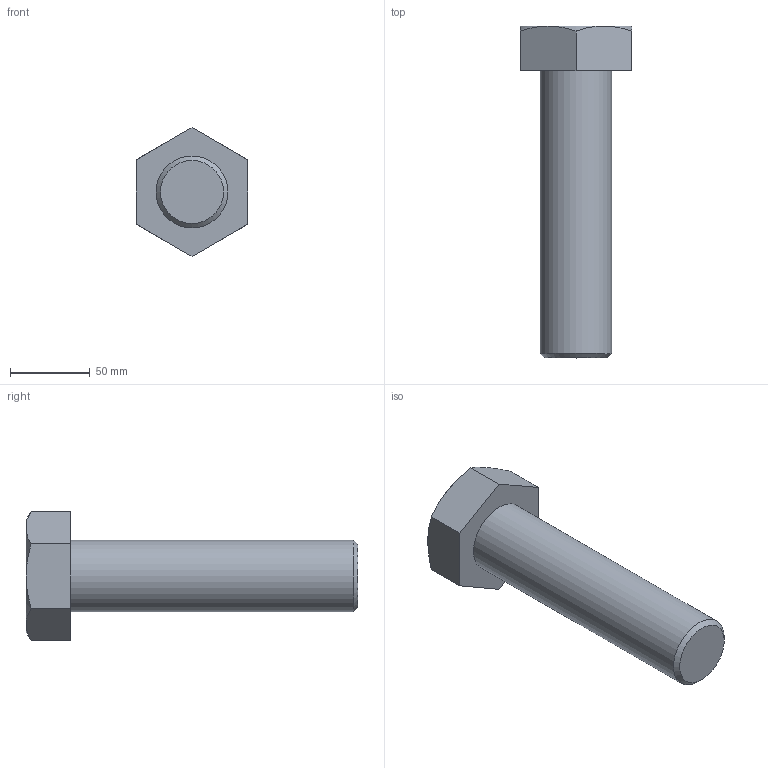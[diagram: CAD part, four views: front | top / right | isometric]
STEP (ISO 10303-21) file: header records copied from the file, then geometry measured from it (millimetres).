
FILE_DESCRIPTION(/* description */ (''),/* implementation_level */ '2;1');
FILE_NAME(/* name */ 'C:\Users\unitec\Documents\Inventor\各種小物\JIS\JIS B 1180 六角ボルト 等級C\hbc45\M45x180.stp',/* time_stamp */ '2015-02-13T14:58:31+09:00',/* author */ ('unitec'),/* organization */ (''),/* preprocessor_version */ 'ST-DEVELOPER v15.2',/* originating_system */ 'Autodesk Inventor 2014',/* authorisation */ '');
FILE_SCHEMA (('AUTOMOTIVE_DESIGN { 1 0 10303 214 3 1 1 }'));
Length unit declared in the file: millimetre
Products named in the file (1): M45x180
Bounding box: 70 x 208 x 80.83 mm (x, y, z)
Volume: 404207.5 mm3; surface area: 40286.2 mm2
Topology: 1 solids, 1 shells, 17 faces, 35 edges, 21 vertices
Faces by surface type: plane 9, cone 7, cylinder 1
Full cylindrical faces by diameter (mm): 45 x1
Entity records: 441 total; most frequent: CARTESIAN_POINT 96, ORIENTED_EDGE 66, DIRECTION 66, EDGE_CURVE 33, AXIS2_PLACEMENT_3D 27, VERTEX_POINT 21, EDGE_LOOP 20, ADVANCED_FACE 17
